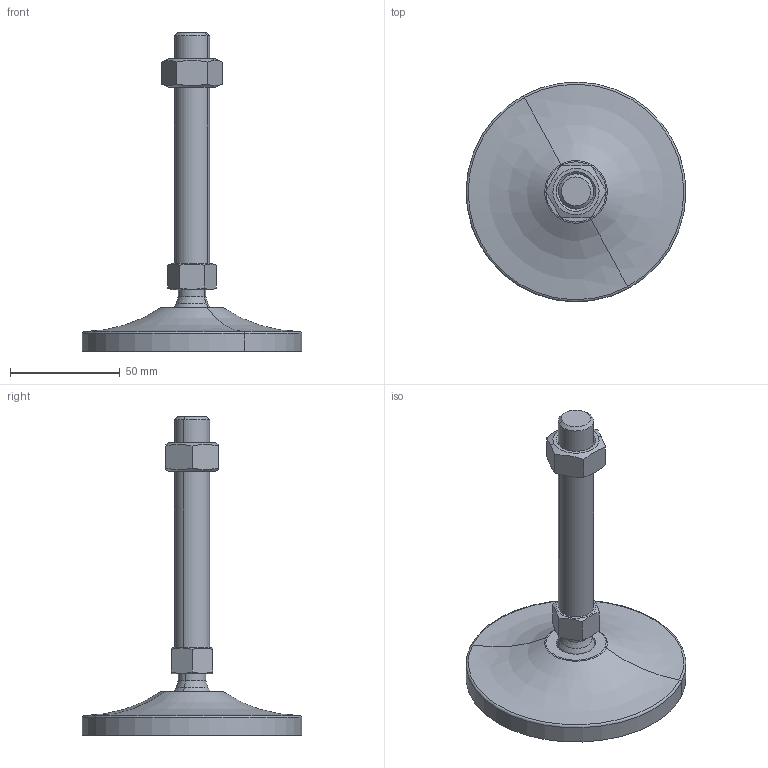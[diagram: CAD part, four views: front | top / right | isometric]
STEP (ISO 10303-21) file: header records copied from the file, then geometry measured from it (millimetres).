
FILE_DESCRIPTION(('CATIA V5 STEP Exchange'),'2;1');
FILE_NAME('C:\Users\ALI OZGUN\Desktop\alhan\saplama2\560101615.stp','2017-09-21T10:34:44+00:00',('none'),('none'),'CATIA Version 5 Release 21 GA (IN-10)','CATIA V5 STEP AP203','none');
FILE_SCHEMA(('CONFIG_CONTROL_DESIGN'));
Length unit declared in the file: millimetre
Products named in the file (1): 560101615
Bounding box: 99.97 x 99.97 x 145 mm (x, y, z)
Volume: 92836.5 mm3; surface area: 30129.9 mm2
Topology: 3 solids, 3 shells, 60 faces, 136 edges, 83 vertices
Faces by surface type: plane 20, cone 16, cylinder 14, torus 4, revolution 4, sphere 2
Entity records: 1857 total; most frequent: CARTESIAN_POINT 615, ORIENTED_EDGE 268, DIRECTION 185, EDGE_CURVE 134, AXIS2_PLACEMENT_3D 99, VERTEX_POINT 83, EDGE_LOOP 67, ADVANCED_FACE 60
